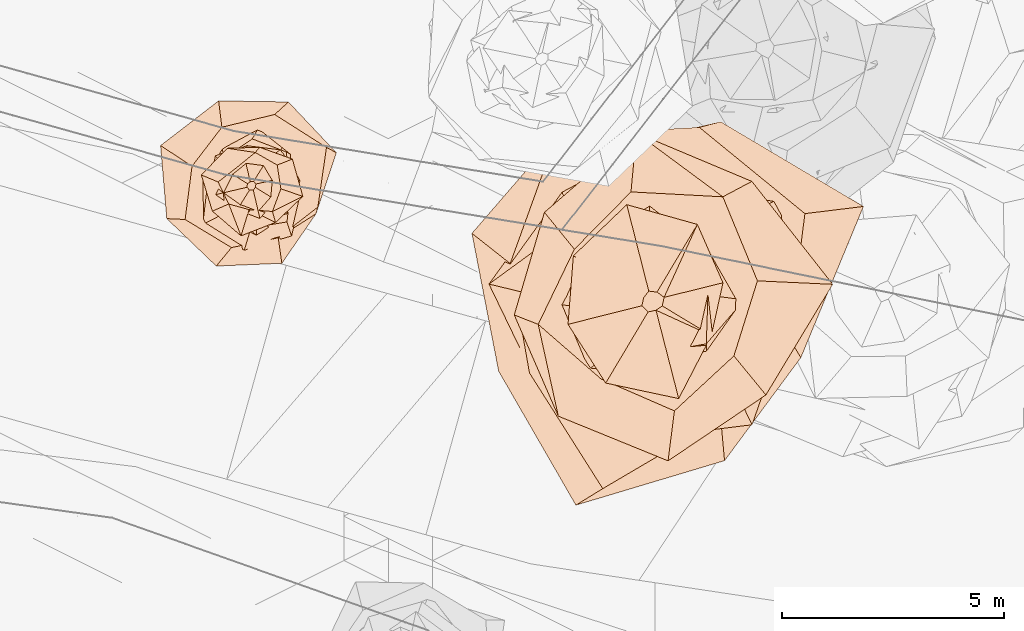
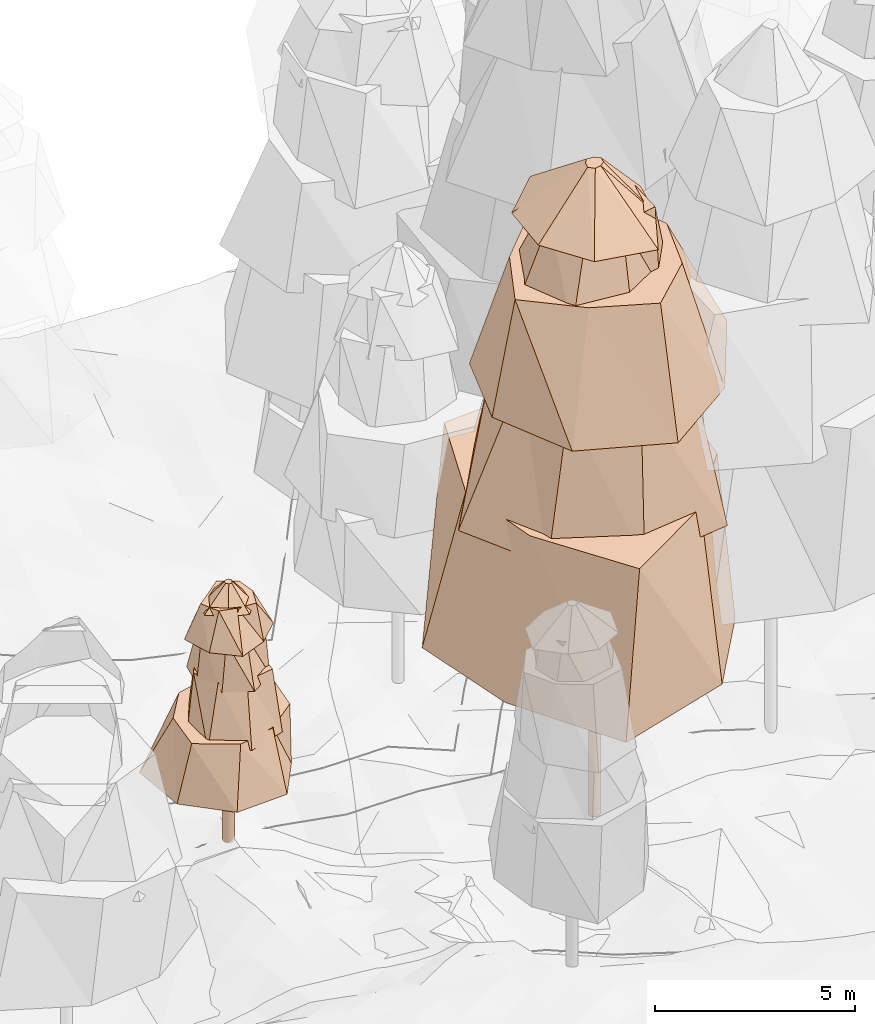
# Not in any storey, part 53 of 88: 2 geographic elements.
"""IFC4 model written with IfcOpenShell, lengths in metres."""

import ifcopenshell
import ifcopenshell.guid

model = None  # the IFC model being written
_history = None  # IfcOwnerHistory: only IFC2X3 demands one
_inside = {}  # id of a spatial element -> (the spatial element, [elements in it])
_under = {}  # id of a project, library or spatial element -> (it, [spatial elements below it])
_declared = {}  # id of a project -> (the project, [libraries it declares])
_typed = {}  # id of a type object -> (the type object, [elements of that type])
_made_of = {}  # id of a material, layer set ... -> (it, [elements and type objects made of it])


def new_model(schema):
    """Start an empty IFC model of exactly this schema.

    Asked for "IFC4X3", IfcOpenShell would pick the latest addendum, in which some entities
    have other attributes; the version numbers below select the first issue.
    IFC2X3 requires an IfcOwnerHistory on every rooted entity: one is made here for all.
    """
    global model, _history
    if schema == "IFC4X3":
        model = ifcopenshell.file(schema_version=(4, 3, 0, 0))
    else:
        model = ifcopenshell.file(schema=schema)
    _inside.clear()
    _under.clear()
    _declared.clear()
    _typed.clear()
    _made_of.clear()
    _history = None
    if model.schema == "IFC2X3":
        org = make("IfcOrganization", Name="unknown")
        user = make(
            "IfcPersonAndOrganization",
            ThePerson=make("IfcPerson", FamilyName="unknown"),
            TheOrganization=org,
        )
        app = make(
            "IfcApplication",
            ApplicationDeveloper=org,
            Version="unknown",
            ApplicationFullName="unknown",
            ApplicationIdentifier="unknown",
        )
        _history = make(
            "IfcOwnerHistory",
            OwningUser=user,
            OwningApplication=app,
            ChangeAction="ADDED",
            CreationDate=0,
        )
    return model


def make(cls, **values):
    """One entity of the class cls with the attributes given. An attribute that is None is left unset."""
    return model.create_entity(
        cls, **{name: value for name, value in values.items() if value is not None}
    )


def rooted(cls, **values):
    """An entity with a GlobalId (a new one), such as an element, a storey or a relation."""
    return make(cls, GlobalId=ifcopenshell.guid.new(), OwnerHistory=_history, **values)


def si_unit(unit_type, name, prefix=None):
    """IfcSIUnit, for example si_unit("LENGTHUNIT", "METRE", prefix="MILLI")."""
    return make("IfcSIUnit", UnitType=unit_type, Prefix=prefix, Name=name)


def assignment(units):
    """IfcUnitAssignment: the units of a project."""
    return None if units is None else make("IfcUnitAssignment", Units=units)


def point(xyz):
    """IfcCartesianPoint."""
    return None if xyz is None else make("IfcCartesianPoint", Coordinates=xyz)


def direction(xyz):
    """IfcDirection."""
    return None if xyz is None else make("IfcDirection", DirectionRatios=xyz)


def frame(location, z_axis=None, x_axis=None):
    """IfcAxis2Placement3D, a coordinate frame: its origin and axes. An axis left out is left unset."""
    return make(
        "IfcAxis2Placement3D",
        Location=point(location),
        Axis=direction(z_axis),
        RefDirection=direction(x_axis),
    )


def origin_with_axes():
    """The frame at (0, 0, 0) with the z axis (0, 0, 1) and the x axis (1, 0, 0) written out."""
    return frame((0.0, 0.0, 0.0), z_axis=(0.0, 0.0, 1.0), x_axis=(1.0, 0.0, 0.0))


def place(relative_to, where):
    """IfcLocalPlacement: puts the frame where relative to a parent placement (None: the world)."""
    return make(
        "IfcLocalPlacement", PlacementRelTo=relative_to, RelativePlacement=where
    )


def context(
    kind, dimensions, precision=None, world=None, true_north=None, identifier=None
):
    """IfcGeometricRepresentationContext, for example the 3D "Model" context."""
    return make(
        "IfcGeometricRepresentationContext",
        ContextIdentifier=identifier,
        ContextType=kind,
        CoordinateSpaceDimension=dimensions,
        Precision=precision,
        WorldCoordinateSystem=world,
        TrueNorth=true_north,
    )


def subcontext(parent, identifier, kind, view, scale=None):
    """IfcGeometricRepresentationSubContext, for example "Body" below "Model"."""
    return make(
        "IfcGeometricRepresentationSubContext",
        ContextIdentifier=identifier,
        ContextType=kind,
        ParentContext=parent,
        TargetScale=scale,
        TargetView=view,
    )


def project(units=None, contexts=None):
    """IfcProject with its units and contexts."""
    return rooted(
        "IfcProject",
        Name="project",
        RepresentationContexts=contexts,
        UnitsInContext=assignment(units),
    )


def spatial(cls, under=None, at=None, **own):
    """A site, building, storey or space (cls), placed at a placement, below another one or the project."""
    s = rooted(cls, ObjectPlacement=at, **own)
    if under is not None:
        _under.setdefault(under.id(), (under, []))[1].append(s)
    return s


def profile(cls, at=None, kind="AREA", **sizes):
    """A parametric profile (cls). Its sizes go by their IFC names, for example OverallWidth=200.0."""
    return make(cls, ProfileType=kind, Position=at, **sizes)


def circle(**sizes):
    """IfcCircleProfileDef."""
    return profile("IfcCircleProfileDef", **sizes)


def extrude(swept, where, along, depth):
    """IfcExtrudedAreaSolid: the profile swept, set in the frame where, extruded along a direction by depth."""
    return make(
        "IfcExtrudedAreaSolid",
        SweptArea=swept,
        Position=where,
        ExtrudedDirection=direction(along),
        Depth=depth,
    )


def faces_of(points, faces, orient=None, outer=None):
    """IfcFace entities. A face is a list of loops; a loop is a list of indices into points, from 0.

    orient and outer hold one flag for each loop. By default every Orientation is true, the
    first loop of a face is its IfcFaceOuterBound and the others are IfcFaceBound.
    """
    made = []
    for i, loops in enumerate(faces):
        bounds = []
        for j, loop in enumerate(loops):
            is_outer = j == 0 if outer is None else outer[i][j]
            bounds.append(
                make(
                    "IfcFaceOuterBound" if is_outer else "IfcFaceBound",
                    Bound=make("IfcPolyLoop", Polygon=[points[k] for k in loop]),
                    Orientation=True if orient is None else orient[i][j],
                )
            )
        made.append(make("IfcFace", Bounds=bounds))
    return made


def faceted_brep(points, faces, orient=None, outer=None, voids=None):
    """IfcFacetedBrep: a solid bounded by flat faces; with voids (closed shells), ...WithVoids."""
    shared = [point(p) for p in points]
    hull = make("IfcClosedShell", CfsFaces=faces_of(shared, faces, orient, outer))
    if voids is None:
        return make("IfcFacetedBrep", Outer=hull)
    return make(
        "IfcFacetedBrepWithVoids",
        Outer=hull,
        Voids=[
            make(cls, CfsFaces=faces_of(shared, fs, o, b)) for cls, fs, o, b in voids
        ],
    )


def shape(context_of_items, identifier, shape_type, items):
    """IfcShapeRepresentation: the items that make up one representation, for example the "Body"."""
    return make(
        "IfcShapeRepresentation",
        ContextOfItems=context_of_items,
        RepresentationIdentifier=identifier,
        RepresentationType=shape_type,
        Items=items,
    )


def made_of(thing, what):
    """Note that an element or type object is made of a material, layer set ...; save() writes the relation."""
    if what is not None:
        _made_of.setdefault(what.id(), (what, []))[1].append(thing)
    return thing


def element(
    cls,
    number,
    at=None,
    inside=None,
    cuts=None,
    type_object=None,
    material=None,
    context=None,
    identifier="Body",
    shape_type=None,
    held_by="IfcProductDefinitionShape",
    body=None,
    shapes=None,
    **own,
):
    """One element of the class cls, such as IfcWall. Its Tag is "e" and its number.

    at: its placement. inside: the storey or other place that contains it. cuts: it is an
    opening in that element (IfcRelVoidsElement). A single representation is given by context,
    identifier, shape_type and body (its items); several are given by shapes. held_by: the class
    of the entity that holds the representations. save() writes the other relations.
    """
    e = rooted(cls, Tag="e%d" % number, ObjectPlacement=at, **own)
    if body is not None:
        shapes = [shape(context, identifier, shape_type, body)]
    if shapes is not None:
        e.Representation = make(held_by, Representations=shapes)
    if inside is not None:
        _inside.setdefault(inside.id(), (inside, []))[1].append(e)
    if cuts is not None:
        rooted(
            "IfcRelVoidsElement", RelatingBuildingElement=cuts, RelatedOpeningElement=e
        )
    if type_object is not None:
        _typed.setdefault(type_object.id(), (type_object, []))[1].append(e)
    return made_of(e, material)


def aggregate(whole, parts):
    """IfcRelAggregates: a whole, such as a stair, and the parts it consists of."""
    return rooted("IfcRelAggregates", RelatingObject=whole, RelatedObjects=parts)


def save(model, path):
    """Write the relations noted so far, then the file.

    IfcRelAggregates (storeys below a building ...), IfcRelContainedInSpatialStructure (elements
    in a storey), IfcRelDefinesByType, IfcRelAssociatesMaterial and IfcRelDeclares: one each for
    every whole, place, type object, material and project.
    """
    for whole, parts in _under.values():
        aggregate(whole, parts)
    for where, things in _inside.values():
        rooted(
            "IfcRelContainedInSpatialStructure",
            RelatedElements=things,
            RelatingStructure=where,
        )
    for kind, things in _typed.values():
        rooted("IfcRelDefinesByType", RelatedObjects=things, RelatingType=kind)
    for what, things in _made_of.values():
        rooted("IfcRelAssociatesMaterial", RelatedObjects=things, RelatingMaterial=what)
    for by, libraries in _declared.values():
        rooted("IfcRelDeclares", RelatingContext=by, RelatedDefinitions=libraries)
    model.write(path)


model = new_model("IFC4")

# Units and contexts
model_context = context("Model", 3, precision=1e-05, world=origin_with_axes())
body_context = subcontext(model_context, "Body", "Model", "MODEL_VIEW")
ifc_project = project(units=[si_unit("LENGTHUNIT", "METRE"), si_unit("AREAUNIT", "SQUARE_METRE"), si_unit("VOLUMEUNIT", "CUBIC_METRE"), si_unit("PLANEANGLEUNIT", "RADIAN")], contexts=[model_context])

# Sites
site_1_placement = place(None, origin_with_axes())
site_1 = spatial("IfcSite", under=ifc_project, at=site_1_placement, Name="CH907857693633", CompositionType="ELEMENT")
site_2_placement = place(None, origin_with_axes())
site_2 = spatial("IfcSite", under=site_1, at=site_2_placement, Name="Simulated_forest", CompositionType="ELEMENT")

# Geographic elements
geographic_element_1_placement = place(None, frame((151.922781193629, 91.4421375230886, 1.877685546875), z_axis=(0.0, 0.0, 1.0), x_axis=(1.0, 0.0, 0.0)))
element("IfcGeographicElement", 1, at=geographic_element_1_placement, inside=site_2, Name="Tree_SIMULATED_WOODED_AREA", ObjectType="VEGETATION", PredefinedType="USERDEFINED", context=body_context, shape_type="Brep", body=[
    extrude(circle(Radius=0.15), origin_with_axes(), (0.0, 0.0, 1.0), 2.19895461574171),
    faceted_brep([(1.44755563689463, -0.636305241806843, 2.19895461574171), (0.681002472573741, -1.74929272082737, 2.19895461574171), (-0.796449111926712, -1.81187317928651, 2.19895461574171), (-1.90991242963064, -0.743531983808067, 2.19895461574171), (-2.05020733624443, 0.90121418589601, 2.19895461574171), (-0.742773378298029, 1.90796379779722, 2.19895461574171), (0.827856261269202, 1.88332252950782, 2.19895461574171), (1.90637392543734, 0.742154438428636, 2.19895461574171), (1.68529826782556, 0.858725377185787, 3.90336355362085), (0.520022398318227, 1.60052342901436, 3.90336355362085), (-0.6700625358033, 1.31503651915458, 3.90336355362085), (-1.34197740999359, 0.436018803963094, 3.90336355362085), (-1.49782388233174, -0.763199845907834, 3.90336355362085), (-0.453361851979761, -1.39535579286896, 3.90336355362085), (0.599236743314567, -1.17603680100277, 3.90336355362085), (1.49046887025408, -0.484264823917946, 3.90336355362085), (1.90637392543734, 0.742154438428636, 2.19895461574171), (0.827856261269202, 1.88332252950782, 2.19895461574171), (0.520022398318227, 1.60052342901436, 3.90336355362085), (1.68529826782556, 0.858725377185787, 3.90336355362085), (0.827856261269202, 1.88332252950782, 2.19895461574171), (-0.742773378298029, 1.90796379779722, 2.19895461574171), (-0.6700625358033, 1.31503651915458, 3.90336355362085), (0.520022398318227, 1.60052342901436, 3.90336355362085), (-0.742773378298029, 1.90796379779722, 2.19895461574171), (-2.05020733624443, 0.90121418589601, 2.19895461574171), (-1.34197740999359, 0.436018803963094, 3.90336355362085), (-0.6700625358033, 1.31503651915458, 3.90336355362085), (-2.05020733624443, 0.90121418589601, 2.19895461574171), (-1.90991242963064, -0.743531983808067, 2.19895461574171), (-1.49782388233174, -0.763199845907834, 3.90336355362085), (-1.34197740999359, 0.436018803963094, 3.90336355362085), (-1.90991242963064, -0.743531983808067, 2.19895461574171), (-0.796449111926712, -1.81187317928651, 2.19895461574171), (-0.453361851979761, -1.39535579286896, 3.90336355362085), (-1.49782388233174, -0.763199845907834, 3.90336355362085), (-0.796449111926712, -1.81187317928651, 2.19895461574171), (0.681002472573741, -1.74929272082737, 2.19895461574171), (0.599236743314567, -1.17603680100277, 3.90336355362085), (-0.453361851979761, -1.39535579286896, 3.90336355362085), (0.681002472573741, -1.74929272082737, 2.19895461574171), (1.44755563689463, -0.636305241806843, 2.19895461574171), (1.49046887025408, -0.484264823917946, 3.90336355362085), (0.599236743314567, -1.17603680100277, 3.90336355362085), (1.44755563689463, -0.636305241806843, 2.19895461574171), (1.90637392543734, 0.742154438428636, 2.19895461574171), (1.68529826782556, 0.858725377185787, 3.90336355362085), (1.49046887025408, -0.484264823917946, 3.90336355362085)], [[[0, 1, 2, 3, 4, 5, 6, 7]], [[8, 9, 10, 11, 12, 13, 14, 15]], [[16, 17, 18, 19]], [[20, 21, 22, 23]], [[24, 25, 26, 27]], [[28, 29, 30, 31]], [[32, 33, 34, 35]], [[36, 37, 38, 39]], [[40, 41, 42, 43]], [[44, 45, 46, 47]]]),
    faceted_brep([(1.13533336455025, -0.129828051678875, 3.64770221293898), (0.90018159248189, -1.13263948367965, 3.64770221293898), (-0.166397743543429, -1.45513167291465, 3.64770221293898), (-1.10046431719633, -0.874609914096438, 3.64770221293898), (-1.11102891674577, 0.127048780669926, 3.64770221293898), (-0.672415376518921, 0.846056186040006, 3.64770221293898), (0.147121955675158, 1.286566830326, 3.64770221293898), (0.884368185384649, 0.702864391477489, 3.64770221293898), (0.778798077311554, 0.757506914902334, 5.40867720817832), (0.0145741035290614, 1.05162262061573, 5.40867720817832), (-0.61082183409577, 0.62799013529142, 5.40867720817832), (-0.995408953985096, 0.0137950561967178, 5.40867720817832), (-0.67445496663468, -0.656016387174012, 5.40867720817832), (-0.0131812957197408, -0.951121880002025, 5.40867720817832), (0.795812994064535, -0.818180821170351, 5.40867720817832), (0.885530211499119, -0.0122722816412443, 5.40867720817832), (0.884368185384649, 0.702864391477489, 3.64770221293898), (0.147121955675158, 1.286566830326, 3.64770221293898), (0.0145741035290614, 1.05162262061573, 5.40867720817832), (0.778798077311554, 0.757506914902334, 5.40867720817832), (0.147121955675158, 1.286566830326, 3.64770221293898), (-0.672415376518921, 0.846056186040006, 3.64770221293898), (-0.61082183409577, 0.62799013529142, 5.40867720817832), (0.0145741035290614, 1.05162262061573, 5.40867720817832), (-0.672415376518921, 0.846056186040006, 3.64770221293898), (-1.11102891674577, 0.127048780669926, 3.64770221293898), (-0.995408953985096, 0.0137950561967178, 5.40867720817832), (-0.61082183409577, 0.62799013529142, 5.40867720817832), (-1.11102891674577, 0.127048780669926, 3.64770221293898), (-1.10046431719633, -0.874609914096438, 3.64770221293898), (-0.67445496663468, -0.656016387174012, 5.40867720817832), (-0.995408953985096, 0.0137950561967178, 5.40867720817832), (-1.10046431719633, -0.874609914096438, 3.64770221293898), (-0.166397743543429, -1.45513167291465, 3.64770221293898), (-0.0131812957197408, -0.951121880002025, 5.40867720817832), (-0.67445496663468, -0.656016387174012, 5.40867720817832), (-0.166397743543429, -1.45513167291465, 3.64770221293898), (0.90018159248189, -1.13263948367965, 3.64770221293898), (0.795812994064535, -0.818180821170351, 5.40867720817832), (-0.0131812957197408, -0.951121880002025, 5.40867720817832), (0.90018159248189, -1.13263948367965, 3.64770221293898), (1.13533336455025, -0.129828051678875, 3.64770221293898), (0.885530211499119, -0.0122722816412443, 5.40867720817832), (0.795812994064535, -0.818180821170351, 5.40867720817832), (1.13533336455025, -0.129828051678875, 3.64770221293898), (0.884368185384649, 0.702864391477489, 3.64770221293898), (0.778798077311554, 0.757506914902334, 5.40867720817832), (0.885530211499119, -0.0122722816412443, 5.40867720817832)], [[[0, 1, 2, 3, 4, 5, 6, 7]], [[8, 9, 10, 11, 12, 13, 14, 15]], [[16, 17, 18, 19]], [[20, 21, 22, 23]], [[24, 25, 26, 27]], [[28, 29, 30, 31]], [[32, 33, 34, 35]], [[36, 37, 38, 39]], [[40, 41, 42, 43]], [[44, 45, 46, 47]]]),
    faceted_brep([(0.808421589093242, -0.664404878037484, 5.14453095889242), (0.10914885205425, -1.11624072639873, 5.14453095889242), (-0.627085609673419, -0.763012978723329, 5.14453095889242), (-0.977498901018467, -0.0955823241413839, 5.14453095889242), (-0.816227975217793, 0.670820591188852, 5.14453095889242), (-0.0915916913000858, 0.936687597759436, 5.14453095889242), (0.689331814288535, 0.838751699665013, 5.14453095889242), (1.08917785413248, 0.106502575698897, 5.14453095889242), (0.832003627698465, 0.166467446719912, 6.55367244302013), (0.439132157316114, 0.658808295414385, 6.55367244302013), (-0.148651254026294, 0.742958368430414, 6.55367244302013), (-0.612856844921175, 0.408502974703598, 6.55367244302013), (-0.879710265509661, -0.176012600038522, 6.55367244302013), (-0.44437588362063, -0.666675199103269, 6.55367244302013), (0.131074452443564, -0.65510958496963, 6.55367244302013), (0.75757239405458, -0.504963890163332, 6.55367244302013), (1.08917785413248, 0.106502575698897, 5.14453095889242), (0.689331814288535, 0.838751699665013, 5.14453095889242), (0.439132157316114, 0.658808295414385, 6.55367244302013), (0.832003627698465, 0.166467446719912, 6.55367244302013), (0.689331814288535, 0.838751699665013, 5.14453095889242), (-0.0915916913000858, 0.936687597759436, 5.14453095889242), (-0.148651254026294, 0.742958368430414, 6.55367244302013), (0.439132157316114, 0.658808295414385, 6.55367244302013), (-0.0915916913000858, 0.936687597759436, 5.14453095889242), (-0.816227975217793, 0.670820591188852, 5.14453095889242), (-0.612856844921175, 0.408502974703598, 6.55367244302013), (-0.148651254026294, 0.742958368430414, 6.55367244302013), (-0.816227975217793, 0.670820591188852, 5.14453095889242), (-0.977498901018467, -0.0955823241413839, 5.14453095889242), (-0.879710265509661, -0.176012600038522, 6.55367244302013), (-0.612856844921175, 0.408502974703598, 6.55367244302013), (-0.977498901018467, -0.0955823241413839, 5.14453095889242), (-0.627085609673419, -0.763012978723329, 5.14453095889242), (-0.44437588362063, -0.666675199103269, 6.55367244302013), (-0.879710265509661, -0.176012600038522, 6.55367244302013), (-0.627085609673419, -0.763012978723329, 5.14453095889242), (0.10914885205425, -1.11624072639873, 5.14453095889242), (0.131074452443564, -0.65510958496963, 6.55367244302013), (-0.44437588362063, -0.666675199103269, 6.55367244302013), (0.10914885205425, -1.11624072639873, 5.14453095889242), (0.808421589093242, -0.664404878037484, 5.14453095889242), (0.75757239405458, -0.504963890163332, 6.55367244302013), (0.131074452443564, -0.65510958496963, 6.55367244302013), (0.808421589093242, -0.664404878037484, 5.14453095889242), (1.08917785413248, 0.106502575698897, 5.14453095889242), (0.832003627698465, 0.166467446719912, 6.55367244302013), (0.75757239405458, -0.504963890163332, 6.55367244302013)], [[[0, 1, 2, 3, 4, 5, 6, 7]], [[8, 9, 10, 11, 12, 13, 14, 15]], [[16, 17, 18, 19]], [[20, 21, 22, 23]], [[24, 25, 26, 27]], [[28, 29, 30, 31]], [[32, 33, 34, 35]], [[36, 37, 38, 39]], [[40, 41, 42, 43]], [[44, 45, 46, 47]]]),
    faceted_brep([(1.15326445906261, -0.243930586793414, 6.34230122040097), (0.539152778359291, -0.828410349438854, 6.34230122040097), (-0.239155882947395, -1.13069042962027, 6.34230122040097), (-0.883691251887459, -0.57513114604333, 6.34230122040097), (-1.13336522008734, 0.239721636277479, 6.34230122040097), (-0.546953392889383, 0.840396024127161, 6.34230122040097), (0.182367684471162, 0.862204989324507, 6.34230122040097), (0.917369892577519, 0.597050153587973, 6.34230122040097), (0.57566543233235, 0.462628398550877, 7.39004960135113), (0.081221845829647, 0.746057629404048, 7.39004960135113), (-0.330462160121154, 0.411206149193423, 7.39004960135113), (-0.754279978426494, 0.0821169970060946, 7.39004960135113), (-0.515536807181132, -0.41430656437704, 7.39004960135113), (-0.0588654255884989, -0.540704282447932, 7.39004960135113), (0.468312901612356, -0.582738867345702, 7.39004960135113), (0.658176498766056, -0.0716543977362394, 7.39004960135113), (0.917369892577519, 0.597050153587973, 6.34230122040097), (0.182367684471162, 0.862204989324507, 6.34230122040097), (0.081221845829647, 0.746057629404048, 7.39004960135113), (0.57566543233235, 0.462628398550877, 7.39004960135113), (0.182367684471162, 0.862204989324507, 6.34230122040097), (-0.546953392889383, 0.840396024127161, 6.34230122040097), (-0.330462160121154, 0.411206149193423, 7.39004960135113), (0.081221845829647, 0.746057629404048, 7.39004960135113), (-0.546953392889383, 0.840396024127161, 6.34230122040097), (-1.13336522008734, 0.239721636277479, 6.34230122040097), (-0.754279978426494, 0.0821169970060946, 7.39004960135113), (-0.330462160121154, 0.411206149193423, 7.39004960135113), (-1.13336522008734, 0.239721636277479, 6.34230122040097), (-0.883691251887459, -0.57513114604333, 6.34230122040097), (-0.515536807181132, -0.41430656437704, 7.39004960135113), (-0.754279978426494, 0.0821169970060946, 7.39004960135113), (-0.883691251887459, -0.57513114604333, 6.34230122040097), (-0.239155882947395, -1.13069042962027, 6.34230122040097), (-0.0588654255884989, -0.540704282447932, 7.39004960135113), (-0.515536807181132, -0.41430656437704, 7.39004960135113), (-0.239155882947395, -1.13069042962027, 6.34230122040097), (0.539152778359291, -0.828410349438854, 6.34230122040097), (0.468312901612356, -0.582738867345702, 7.39004960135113), (-0.0588654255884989, -0.540704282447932, 7.39004960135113), (0.539152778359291, -0.828410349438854, 6.34230122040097), (1.15326445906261, -0.243930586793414, 6.34230122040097), (0.658176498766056, -0.0716543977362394, 7.39004960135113), (0.468312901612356, -0.582738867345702, 7.39004960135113), (1.15326445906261, -0.243930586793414, 6.34230122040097), (0.917369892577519, 0.597050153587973, 6.34230122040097), (0.57566543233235, 0.462628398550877, 7.39004960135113), (0.658176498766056, -0.0716543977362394, 7.39004960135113)], [[[0, 1, 2, 3, 4, 5, 6, 7]], [[8, 9, 10, 11, 12, 13, 14, 15]], [[16, 17, 18, 19]], [[20, 21, 22, 23]], [[24, 25, 26, 27]], [[28, 29, 30, 31]], [[32, 33, 34, 35]], [[36, 37, 38, 39]], [[40, 41, 42, 43]], [[44, 45, 46, 47]]]),
    faceted_brep([(0.547882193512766, -0.327764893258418, 7.23288734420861), (0.185967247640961, -0.739795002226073, 7.23288734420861), (-0.325718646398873, -0.544461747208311, 7.23288734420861), (-0.810611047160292, -0.203768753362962, 7.23288734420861), (-0.542551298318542, 0.324575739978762, 7.23288734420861), (-0.159504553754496, 0.634523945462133, 7.23288734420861), (0.34112204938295, 0.570209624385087, 7.23288734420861), (0.590600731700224, 0.148463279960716, 7.23288734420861), (0.0960574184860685, 0.0346586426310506, 7.85946707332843), (0.0452788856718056, 0.0963973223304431, 7.85946707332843), (-0.0311198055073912, 0.0862494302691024, 7.85946707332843), (-0.0943095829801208, 0.044298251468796, 7.85946707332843), (-0.104253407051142, -0.0376158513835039, 7.85946707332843), (-0.0480103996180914, -0.102212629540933, 7.85946707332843), (0.0369433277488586, -0.10238948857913, 7.85946707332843), (0.0841720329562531, -0.0395365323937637, 7.85946707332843), (0.590600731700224, 0.148463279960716, 7.23288734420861), (0.34112204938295, 0.570209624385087, 7.23288734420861), (0.0452788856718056, 0.0963973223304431, 7.85946707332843), (0.0960574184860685, 0.0346586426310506, 7.85946707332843), (0.34112204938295, 0.570209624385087, 7.23288734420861), (-0.159504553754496, 0.634523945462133, 7.23288734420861), (-0.0311198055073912, 0.0862494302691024, 7.85946707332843), (0.0452788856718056, 0.0963973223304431, 7.85946707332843), (-0.159504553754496, 0.634523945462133, 7.23288734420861), (-0.542551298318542, 0.324575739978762, 7.23288734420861), (-0.0943095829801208, 0.044298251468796, 7.85946707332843), (-0.0311198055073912, 0.0862494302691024, 7.85946707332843), (-0.542551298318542, 0.324575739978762, 7.23288734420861), (-0.810611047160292, -0.203768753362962, 7.23288734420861), (-0.104253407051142, -0.0376158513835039, 7.85946707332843), (-0.0943095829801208, 0.044298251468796, 7.85946707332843), (-0.810611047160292, -0.203768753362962, 7.23288734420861), (-0.325718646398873, -0.544461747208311, 7.23288734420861), (-0.0480103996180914, -0.102212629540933, 7.85946707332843), (-0.104253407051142, -0.0376158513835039, 7.85946707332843), (-0.325718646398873, -0.544461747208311, 7.23288734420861), (0.185967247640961, -0.739795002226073, 7.23288734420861), (0.0369433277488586, -0.10238948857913, 7.85946707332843), (-0.0480103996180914, -0.102212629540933, 7.85946707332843), (0.185967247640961, -0.739795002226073, 7.23288734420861), (0.547882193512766, -0.327764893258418, 7.23288734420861), (0.0841720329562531, -0.0395365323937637, 7.85946707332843), (0.0369433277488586, -0.10238948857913, 7.85946707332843), (0.547882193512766, -0.327764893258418, 7.23288734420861), (0.590600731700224, 0.148463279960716, 7.23288734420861), (0.0960574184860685, 0.0346586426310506, 7.85946707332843), (0.0841720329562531, -0.0395365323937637, 7.85946707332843)], [[[0, 1, 2, 3, 4, 5, 6, 7]], [[8, 9, 10, 11, 12, 13, 14, 15]], [[16, 17, 18, 19]], [[20, 21, 22, 23]], [[24, 25, 26, 27]], [[28, 29, 30, 31]], [[32, 33, 34, 35]], [[36, 37, 38, 39]], [[40, 41, 42, 43]], [[44, 45, 46, 47]]]),
])
geographic_element_2_placement = place(None, frame((160.953743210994, 88.8294085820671, 1.0899658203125), z_axis=(0.0, 0.0, 1.0), x_axis=(1.0, 0.0, 0.0)))
element("IfcGeographicElement", 2, at=geographic_element_2_placement, inside=site_2, Name="Tree_SIMULATED_FOREST_DENSE", ObjectType="VEGETATION", PredefinedType="USERDEFINED", context=body_context, shape_type="Brep", body=[
    extrude(circle(Radius=0.15), origin_with_axes(), (0.0, 0.0, 1.0), 5.54193600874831),
    faceted_brep([(3.33458178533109, -1.25946266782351, 5.54193600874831), (1.61717386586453, -3.58021309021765, 5.54193600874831), (-1.73060244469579, -4.5819820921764, 5.54193600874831), (-3.4687406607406, -1.56682203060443, 5.54193600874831), (-4.07091861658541, 1.53757512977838, 5.54193600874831), (-1.51065956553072, 3.34440425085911, 5.54193600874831), (1.52984128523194, 4.05044231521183, 5.54193600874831), (4.74379365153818, 2.14276047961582, 5.54193600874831), (3.4268988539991, 1.98156535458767, 10.3989890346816), (1.04877189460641, 3.92452348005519, 10.3989890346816), (-2.16525664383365, 3.7445726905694, 10.3989890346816), (-3.20918954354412, 0.857609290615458, 10.3989890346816), (-2.77536798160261, -1.60482502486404, 10.3989890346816), (-1.12505188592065, -4.20996459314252, 10.3989890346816), (1.53162098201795, -2.64876965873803, 10.3989890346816), (3.06595845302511, -0.819332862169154, 10.3989890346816), (4.74379365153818, 2.14276047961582, 5.54193600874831), (1.52984128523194, 4.05044231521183, 5.54193600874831), (1.04877189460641, 3.92452348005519, 10.3989890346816), (3.4268988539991, 1.98156535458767, 10.3989890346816), (1.52984128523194, 4.05044231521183, 5.54193600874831), (-1.51065956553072, 3.34440425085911, 5.54193600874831), (-2.16525664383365, 3.7445726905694, 10.3989890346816), (1.04877189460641, 3.92452348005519, 10.3989890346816), (-1.51065956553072, 3.34440425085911, 5.54193600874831), (-4.07091861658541, 1.53757512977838, 5.54193600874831), (-3.20918954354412, 0.857609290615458, 10.3989890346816), (-2.16525664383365, 3.7445726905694, 10.3989890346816), (-4.07091861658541, 1.53757512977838, 5.54193600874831), (-3.4687406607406, -1.56682203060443, 5.54193600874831), (-2.77536798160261, -1.60482502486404, 10.3989890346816), (-3.20918954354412, 0.857609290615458, 10.3989890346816), (-3.4687406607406, -1.56682203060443, 5.54193600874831), (-1.73060244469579, -4.5819820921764, 5.54193600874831), (-1.12505188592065, -4.20996459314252, 10.3989890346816), (-2.77536798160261, -1.60482502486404, 10.3989890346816), (-1.73060244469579, -4.5819820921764, 5.54193600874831), (1.61717386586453, -3.58021309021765, 5.54193600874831), (1.53162098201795, -2.64876965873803, 10.3989890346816), (-1.12505188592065, -4.20996459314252, 10.3989890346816), (1.61717386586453, -3.58021309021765, 5.54193600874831), (3.33458178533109, -1.25946266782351, 5.54193600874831), (3.06595845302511, -0.819332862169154, 10.3989890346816), (1.53162098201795, -2.64876965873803, 10.3989890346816), (3.33458178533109, -1.25946266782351, 5.54193600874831), (4.74379365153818, 2.14276047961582, 5.54193600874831), (3.4268988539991, 1.98156535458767, 10.3989890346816), (3.06595845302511, -0.819332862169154, 10.3989890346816)], [[[0, 1, 2, 3, 4, 5, 6, 7]], [[8, 9, 10, 11, 12, 13, 14, 15]], [[16, 17, 18, 19]], [[20, 21, 22, 23]], [[24, 25, 26, 27]], [[28, 29, 30, 31]], [[32, 33, 34, 35]], [[36, 37, 38, 39]], [[40, 41, 42, 43]], [[44, 45, 46, 47]]]),
    faceted_brep([(3.08934942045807, -0.331206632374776, 9.67043108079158), (2.23569371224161, -2.77263225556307, 9.67043108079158), (-0.331151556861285, -3.0888357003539, 9.67043108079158), (-2.51545981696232, -2.02832441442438, 9.67043108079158), (-3.6869048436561, 0.395270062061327, 9.67043108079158), (-2.09615582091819, 2.59958204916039, 9.67043108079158), (0.298637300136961, 2.78555705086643, 9.67043108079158), (2.90059089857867, 2.33887231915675, 9.67043108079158), (1.87825304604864, 1.85287632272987, 13.9905815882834), (0.0187372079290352, 2.7549241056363, 13.9905815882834), (-1.77034130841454, 1.79458764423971, 13.9905815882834), (-2.10563655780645, 0.01432117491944, 13.9905815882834), (-1.70458346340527, -1.68155315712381, 13.9905815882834), (-0.016032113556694, -2.35719517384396, 13.9905815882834), (1.76111560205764, -1.78523558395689, 13.9905815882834), (2.89017669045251, -0.0196571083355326, 13.9905815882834), (2.90059089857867, 2.33887231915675, 9.67043108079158), (0.298637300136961, 2.78555705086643, 9.67043108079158), (0.0187372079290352, 2.7549241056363, 13.9905815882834), (1.87825304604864, 1.85287632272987, 13.9905815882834), (0.298637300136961, 2.78555705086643, 9.67043108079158), (-2.09615582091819, 2.59958204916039, 9.67043108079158), (-1.77034130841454, 1.79458764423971, 13.9905815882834), (0.0187372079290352, 2.7549241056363, 13.9905815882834), (-2.09615582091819, 2.59958204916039, 9.67043108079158), (-3.6869048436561, 0.395270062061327, 9.67043108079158), (-2.10563655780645, 0.01432117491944, 13.9905815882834), (-1.77034130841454, 1.79458764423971, 13.9905815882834), (-3.6869048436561, 0.395270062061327, 9.67043108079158), (-2.51545981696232, -2.02832441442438, 9.67043108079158), (-1.70458346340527, -1.68155315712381, 13.9905815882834), (-2.10563655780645, 0.01432117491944, 13.9905815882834), (-2.51545981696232, -2.02832441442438, 9.67043108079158), (-0.331151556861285, -3.0888357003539, 9.67043108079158), (-0.016032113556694, -2.35719517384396, 13.9905815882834), (-1.70458346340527, -1.68155315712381, 13.9905815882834), (-0.331151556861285, -3.0888357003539, 9.67043108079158), (2.23569371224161, -2.77263225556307, 9.67043108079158), (1.76111560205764, -1.78523558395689, 13.9905815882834), (-0.016032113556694, -2.35719517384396, 13.9905815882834), (2.23569371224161, -2.77263225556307, 9.67043108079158), (3.08934942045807, -0.331206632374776, 9.67043108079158), (2.89017669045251, -0.0196571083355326, 13.9905815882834), (1.76111560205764, -1.78523558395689, 13.9905815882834), (3.08934942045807, -0.331206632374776, 9.67043108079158), (2.90059089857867, 2.33887231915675, 9.67043108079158), (1.87825304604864, 1.85287632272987, 13.9905815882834), (2.89017669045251, -0.0196571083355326, 13.9905815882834)], [[[0, 1, 2, 3, 4, 5, 6, 7]], [[8, 9, 10, 11, 12, 13, 14, 15]], [[16, 17, 18, 19]], [[20, 21, 22, 23]], [[24, 25, 26, 27]], [[28, 29, 30, 31]], [[32, 33, 34, 35]], [[36, 37, 38, 39]], [[40, 41, 42, 43]], [[44, 45, 46, 47]]]),
    faceted_brep([(2.54797730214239, -2.10061808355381, 13.3425590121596), (0.344939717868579, -3.58433472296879, 13.3425590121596), (-2.12560957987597, -2.57829112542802, 13.3425590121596), (-3.11758290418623, -0.300021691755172, 13.3425590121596), (-2.43821314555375, 2.01012568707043, 13.3425590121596), (-0.365539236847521, 3.79838827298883, 13.3425590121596), (2.23181081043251, 2.70710955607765, 13.3425590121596), (4.051176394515, 0.389866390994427, 13.3425590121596), (2.35714769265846, 0.467862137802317, 16.8648152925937), (1.57842716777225, 2.36018967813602, 16.8648152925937), (-0.490381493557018, 2.47060301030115, 16.8648152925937), (-1.76413042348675, 1.17979983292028, 16.8648152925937), (-2.57832123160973, -0.511762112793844, 16.8648152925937), (-1.16407124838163, -1.74061179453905, 16.8648152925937), (0.488298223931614, -2.46010723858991, 16.8648152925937), (1.82762657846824, -1.22226424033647, 16.8648152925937), (4.051176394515, 0.389866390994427, 13.3425590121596), (2.23181081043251, 2.70710955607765, 13.3425590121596), (1.57842716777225, 2.36018967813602, 16.8648152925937), (2.35714769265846, 0.467862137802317, 16.8648152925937), (2.23181081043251, 2.70710955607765, 13.3425590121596), (-0.365539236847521, 3.79838827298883, 13.3425590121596), (-0.490381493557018, 2.47060301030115, 16.8648152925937), (1.57842716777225, 2.36018967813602, 16.8648152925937), (-0.365539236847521, 3.79838827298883, 13.3425590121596), (-2.43821314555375, 2.01012568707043, 13.3425590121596), (-1.76413042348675, 1.17979983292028, 16.8648152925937), (-0.490381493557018, 2.47060301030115, 16.8648152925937), (-2.43821314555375, 2.01012568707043, 13.3425590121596), (-3.11758290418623, -0.300021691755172, 13.3425590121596), (-2.57832123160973, -0.511762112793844, 16.8648152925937), (-1.76413042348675, 1.17979983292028, 16.8648152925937), (-3.11758290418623, -0.300021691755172, 13.3425590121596), (-2.12560957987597, -2.57829112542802, 13.3425590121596), (-1.16407124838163, -1.74061179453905, 16.8648152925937), (-2.57832123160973, -0.511762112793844, 16.8648152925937), (-2.12560957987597, -2.57829112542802, 13.3425590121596), (0.344939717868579, -3.58433472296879, 13.3425590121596), (0.488298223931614, -2.46010723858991, 16.8648152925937), (-1.16407124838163, -1.74061179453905, 16.8648152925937), (0.344939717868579, -3.58433472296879, 13.3425590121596), (2.54797730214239, -2.10061808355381, 13.3425590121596), (1.82762657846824, -1.22226424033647, 16.8648152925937), (0.488298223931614, -2.46010723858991, 16.8648152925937), (2.54797730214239, -2.10061808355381, 13.3425590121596), (4.051176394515, 0.389866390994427, 13.3425590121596), (2.35714769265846, 0.467862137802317, 16.8648152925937), (1.82762657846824, -1.22226424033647, 16.8648152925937)], [[[0, 1, 2, 3, 4, 5, 6, 7]], [[8, 9, 10, 11, 12, 13, 14, 15]], [[16, 17, 18, 19]], [[20, 21, 22, 23]], [[24, 25, 26, 27]], [[28, 29, 30, 31]], [[32, 33, 34, 35]], [[36, 37, 38, 39]], [[40, 41, 42, 43]], [[44, 45, 46, 47]]]),
    faceted_brep([(1.20962577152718, -1.16553545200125, 16.3364768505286), (0.0337716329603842, -1.81928990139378, 16.3364768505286), (-1.57345697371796, -1.63297830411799, 16.3364768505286), (-2.24009614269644, -0.0415830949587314, 16.3364768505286), (-1.55109109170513, 1.49455451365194, 16.3364768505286), (-0.0448478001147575, 2.41596697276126, 16.3364768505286), (1.30827958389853, 1.35776968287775, 16.3364768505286), (2.05875690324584, 0.0382168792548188, 16.3364768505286), (1.24271993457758, 0.148032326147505, 18.6327991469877), (0.694456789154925, 0.882276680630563, 18.6327991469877), (-0.150641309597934, 1.26462214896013, 18.6327991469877), (-0.90935737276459, 0.715772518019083, 18.6327991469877), (-1.38817170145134, -0.165358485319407, 18.6327991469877), (-0.819530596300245, -1.04117742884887, 18.6327991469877), (0.136287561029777, -1.1441235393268, 18.6327991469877), (1.20641097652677, -0.949589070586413, 18.6327991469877), (2.05875690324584, 0.0382168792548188, 16.3364768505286), (1.30827958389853, 1.35776968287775, 16.3364768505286), (0.694456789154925, 0.882276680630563, 18.6327991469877), (1.24271993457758, 0.148032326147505, 18.6327991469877), (1.30827958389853, 1.35776968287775, 16.3364768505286), (-0.0448478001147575, 2.41596697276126, 16.3364768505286), (-0.150641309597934, 1.26462214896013, 18.6327991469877), (0.694456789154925, 0.882276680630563, 18.6327991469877), (-0.0448478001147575, 2.41596697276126, 16.3364768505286), (-1.55109109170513, 1.49455451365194, 16.3364768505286), (-0.90935737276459, 0.715772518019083, 18.6327991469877), (-0.150641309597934, 1.26462214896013, 18.6327991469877), (-1.55109109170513, 1.49455451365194, 16.3364768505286), (-2.24009614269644, -0.0415830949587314, 16.3364768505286), (-1.38817170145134, -0.165358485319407, 18.6327991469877), (-0.90935737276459, 0.715772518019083, 18.6327991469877), (-2.24009614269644, -0.0415830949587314, 16.3364768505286), (-1.57345697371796, -1.63297830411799, 16.3364768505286), (-0.819530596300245, -1.04117742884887, 18.6327991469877), (-1.38817170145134, -0.165358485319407, 18.6327991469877), (-1.57345697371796, -1.63297830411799, 16.3364768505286), (0.0337716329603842, -1.81928990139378, 16.3364768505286), (0.136287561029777, -1.1441235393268, 18.6327991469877), (-0.819530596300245, -1.04117742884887, 18.6327991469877), (0.0337716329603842, -1.81928990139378, 16.3364768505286), (1.20962577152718, -1.16553545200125, 16.3364768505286), (1.20641097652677, -0.949589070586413, 18.6327991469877), (0.136287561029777, -1.1441235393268, 18.6327991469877), (1.20962577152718, -1.16553545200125, 16.3364768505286), (2.05875690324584, 0.0382168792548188, 16.3364768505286), (1.24271993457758, 0.148032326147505, 18.6327991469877), (1.20641097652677, -0.949589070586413, 18.6327991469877)], [[[0, 1, 2, 3, 4, 5, 6, 7]], [[8, 9, 10, 11, 12, 13, 14, 15]], [[16, 17, 18, 19]], [[20, 21, 22, 23]], [[24, 25, 26, 27]], [[28, 29, 30, 31]], [[32, 33, 34, 35]], [[36, 37, 38, 39]], [[40, 41, 42, 43]], [[44, 45, 46, 47]]]),
    faceted_brep([(1.31985568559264, -0.762206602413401, 18.2883508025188), (0.584512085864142, -2.18235913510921, 18.2883508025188), (-1.05868161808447, -1.83323910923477, 18.2883508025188), (-1.90728686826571, -0.510838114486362, 18.2883508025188), (-1.78703730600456, 1.03200042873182, 18.2883508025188), (-0.584752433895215, 2.1832565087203, 18.2883508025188), (1.00437222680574, 1.73919563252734, 18.2883508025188), (1.58126409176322, 0.423517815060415, 18.2883508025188), (0.255723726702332, 0.0967496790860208, 19.8254887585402), (0.0970813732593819, 0.215246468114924, 19.8254887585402), (-0.0896563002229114, 0.236974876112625, 19.8254887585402), (-0.201856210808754, 0.0910420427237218, 19.8254887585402), (-0.246541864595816, -0.0932758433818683, 19.8254887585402), (-0.104587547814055, -0.231888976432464, 19.8254887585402), (0.0733031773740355, -0.19375115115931, 19.8254887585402), (0.214894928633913, -0.0969228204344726, 19.8254887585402), (1.58126409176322, 0.423517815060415, 18.2883508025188), (1.00437222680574, 1.73919563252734, 18.2883508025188), (0.0970813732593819, 0.215246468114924, 19.8254887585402), (0.255723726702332, 0.0967496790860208, 19.8254887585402), (1.00437222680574, 1.73919563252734, 18.2883508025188), (-0.584752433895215, 2.1832565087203, 18.2883508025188), (-0.0896563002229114, 0.236974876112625, 19.8254887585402), (0.0970813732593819, 0.215246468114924, 19.8254887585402), (-0.584752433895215, 2.1832565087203, 18.2883508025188), (-1.78703730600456, 1.03200042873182, 18.2883508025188), (-0.201856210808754, 0.0910420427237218, 19.8254887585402), (-0.0896563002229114, 0.236974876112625, 19.8254887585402), (-1.78703730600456, 1.03200042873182, 18.2883508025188), (-1.90728686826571, -0.510838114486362, 18.2883508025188), (-0.246541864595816, -0.0932758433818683, 19.8254887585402), (-0.201856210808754, 0.0910420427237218, 19.8254887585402), (-1.90728686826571, -0.510838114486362, 18.2883508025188), (-1.05868161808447, -1.83323910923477, 18.2883508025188), (-0.104587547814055, -0.231888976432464, 19.8254887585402), (-0.246541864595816, -0.0932758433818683, 19.8254887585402), (-1.05868161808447, -1.83323910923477, 18.2883508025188), (0.584512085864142, -2.18235913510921, 18.2883508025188), (0.0733031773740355, -0.19375115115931, 19.8254887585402), (-0.104587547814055, -0.231888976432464, 19.8254887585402), (0.584512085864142, -2.18235913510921, 18.2883508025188), (1.31985568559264, -0.762206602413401, 18.2883508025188), (0.214894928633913, -0.0969228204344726, 19.8254887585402), (0.0733031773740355, -0.19375115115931, 19.8254887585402), (1.31985568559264, -0.762206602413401, 18.2883508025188), (1.58126409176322, 0.423517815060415, 18.2883508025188), (0.255723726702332, 0.0967496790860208, 19.8254887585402), (0.214894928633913, -0.0969228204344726, 19.8254887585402)], [[[0, 1, 2, 3, 4, 5, 6, 7]], [[8, 9, 10, 11, 12, 13, 14, 15]], [[16, 17, 18, 19]], [[20, 21, 22, 23]], [[24, 25, 26, 27]], [[28, 29, 30, 31]], [[32, 33, 34, 35]], [[36, 37, 38, 39]], [[40, 41, 42, 43]], [[44, 45, 46, 47]]]),
])

save(model, "model.ifc")
